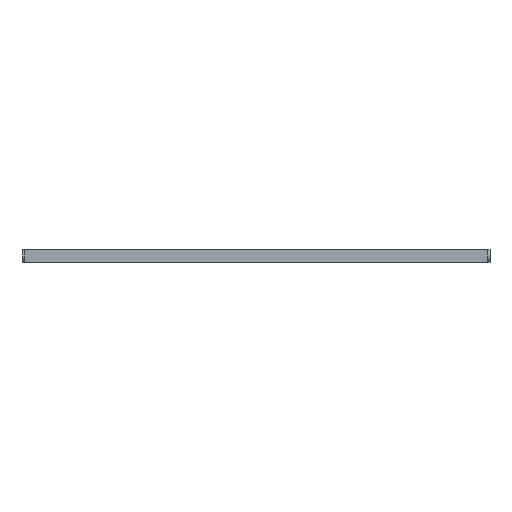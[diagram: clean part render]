
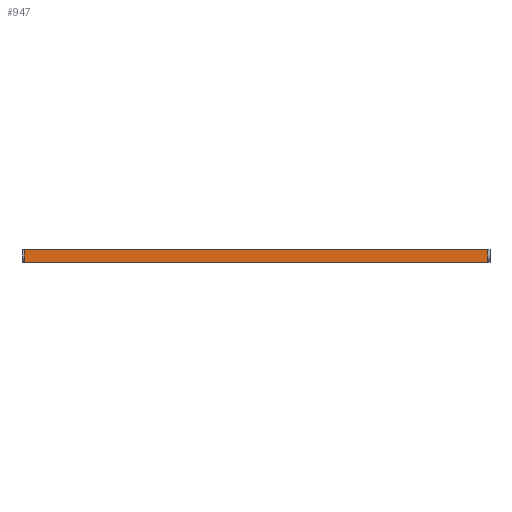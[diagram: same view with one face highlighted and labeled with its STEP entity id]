
A CAD part, front view. The second image highlights one B-rep face of the part: STEP entity #947.
In plain terms, the highlighted planar face has unit normal (0, -1, 0).
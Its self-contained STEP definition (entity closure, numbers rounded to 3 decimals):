
#44 = EDGE_LOOP ( 'NONE', ( #653, #717, #1361, #815 ) ) ;
#50 = PLANE ( 'NONE',  #482 ) ;
#55 = CARTESIAN_POINT ( 'NONE',  ( -950., -4., 12.5 ) ) ;
#129 = VECTOR ( 'NONE', #176, 1000. ) ;
#176 = DIRECTION ( 'NONE',  ( 1., 0., 0. ) ) ;
#348 = VECTOR ( 'NONE', #1208, 1000. ) ;
#390 = LINE ( 'NONE', #1071, #348 ) ;
#482 = AXIS2_PLACEMENT_3D ( 'NONE', #55, #1060, #1817 ) ;
#610 = CARTESIAN_POINT ( 'NONE',  ( 0., -4., -12.5 ) ) ;
#653 = ORIENTED_EDGE ( 'NONE', *, *, #997, .F. ) ;
#706 = EDGE_CURVE ( 'NONE', #1491, #1469, #1018, .T. ) ;
#717 = ORIENTED_EDGE ( 'NONE', *, *, #1001, .F. ) ;
#730 = CARTESIAN_POINT ( 'NONE',  ( -950., -4., -12.5 ) ) ;
#815 = ORIENTED_EDGE ( 'NONE', *, *, #706, .T. ) ;
#860 = LINE ( 'NONE', #1372, #1855 ) ;
#928 = CARTESIAN_POINT ( 'NONE',  ( 0., -4., 12.5 ) ) ;
#947 = ADVANCED_FACE ( 'NONE', ( #1524 ), #50, .T. ) ;
#997 = EDGE_CURVE ( 'NONE', #1489, #1469, #860, .T. ) ;
#1001 = EDGE_CURVE ( 'NONE', #1266, #1489, #1214, .T. ) ;
#1006 = EDGE_CURVE ( 'NONE', #1266, #1491, #390, .T. ) ;
#1018 = LINE ( 'NONE', #730, #129 ) ;
#1060 = DIRECTION ( 'NONE',  ( 0., -1., 0. ) ) ;
#1066 = DIRECTION ( 'NONE',  ( 1., 0., 0. ) ) ;
#1071 = CARTESIAN_POINT ( 'NONE',  ( -950., -4., 12.5 ) ) ;
#1169 = VECTOR ( 'NONE', #1066, 1000. ) ;
#1182 = DIRECTION ( 'NONE',  ( 0., 0., -1. ) ) ;
#1208 = DIRECTION ( 'NONE',  ( 0., 0., -1. ) ) ;
#1214 = LINE ( 'NONE', #1368, #1169 ) ;
#1266 = VERTEX_POINT ( 'NONE', #1461 ) ;
#1361 = ORIENTED_EDGE ( 'NONE', *, *, #1006, .T. ) ;
#1368 = CARTESIAN_POINT ( 'NONE',  ( -950., -4., 12.5 ) ) ;
#1372 = CARTESIAN_POINT ( 'NONE',  ( 0., -4., 12.5 ) ) ;
#1461 = CARTESIAN_POINT ( 'NONE',  ( -950., -4., 12.5 ) ) ;
#1469 = VERTEX_POINT ( 'NONE', #610 ) ;
#1489 = VERTEX_POINT ( 'NONE', #928 ) ;
#1491 = VERTEX_POINT ( 'NONE', #1628 ) ;
#1524 = FACE_OUTER_BOUND ( 'NONE', #44, .T. ) ;
#1628 = CARTESIAN_POINT ( 'NONE',  ( -950., -4., -12.5 ) ) ;
#1817 = DIRECTION ( 'NONE',  ( 0., 0., -1. ) ) ;
#1855 = VECTOR ( 'NONE', #1182, 1000. ) ;
